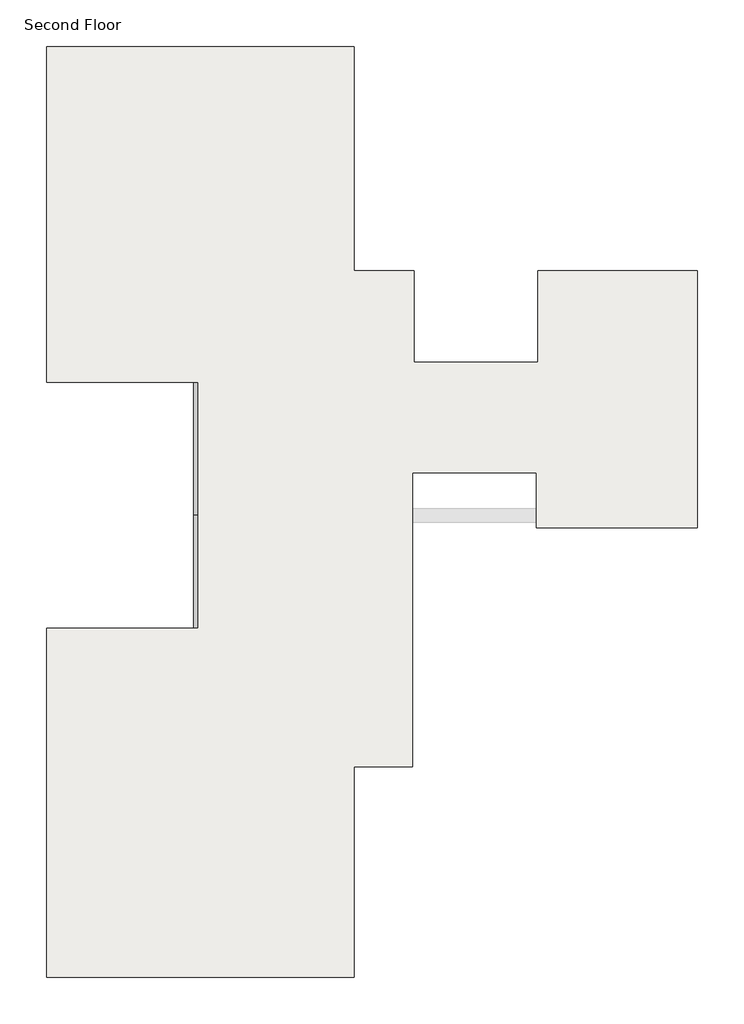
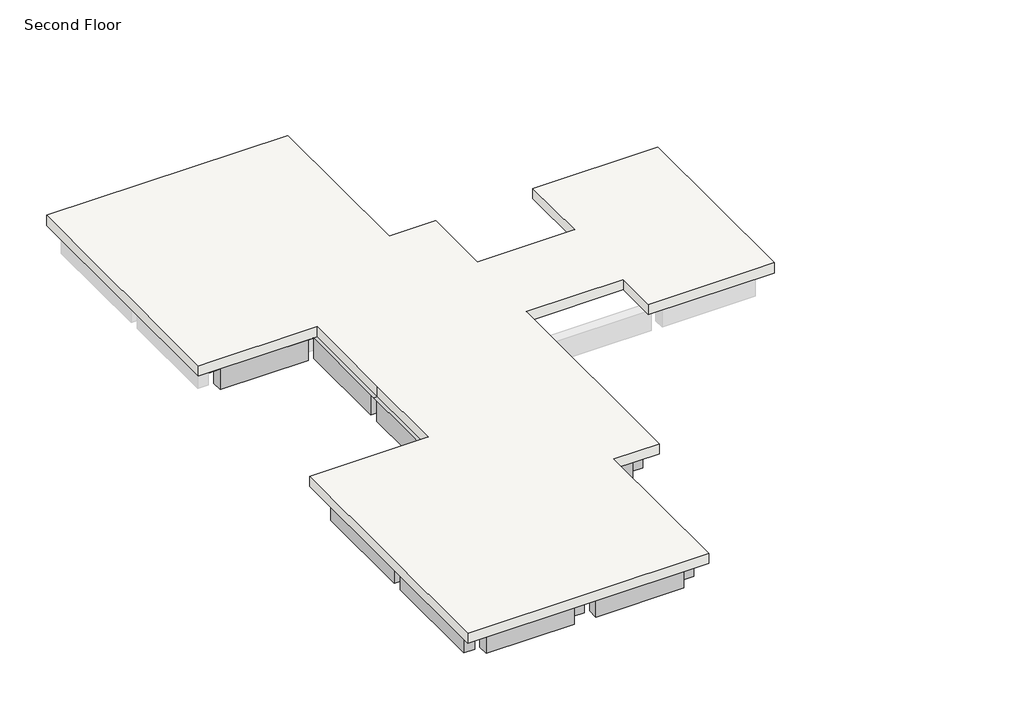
# One storey, part 1 of 2: 17 beams, 1 slab.
"""IFC4 building model written with IfcOpenShell, lengths in millimetres."""

from ifc_helpers import new_model, si_unit, origin, place, context, project, spatial, faceted_brep, element, save

model = new_model("IFC4")

# Units and contexts
model_context = context("Model", 3, world=origin())
ifc_project = project(units=[si_unit("LENGTHUNIT", "METRE", prefix="MILLI")], contexts=[model_context])

# Site, building, storey
site = spatial("IfcSite", under=ifc_project)
building = spatial("IfcBuilding", under=site)
storey = spatial("IfcBuildingStorey", under=building, Name="Second Floor", Elevation=3810.0)

# Beams
placement = place(None, origin())
element("IfcBeam", 1, ObjectType="M_Concrete-Rectangular Beam : 300 x 600mm", at=placement, inside=storey, context=model_context, shape_type="Brep", body=[
    faceted_brep([(-9933.3472303, 7869.016665, 3510.0), (-9933.3472303, 7719.016665, 3510.0), (-9933.3472303, 4821.016665, 3510.0), (-9783.3472303, 4821.016665, 3510.0), (-9783.3472303, 4971.016665, 3510.0), (-9633.3472303, 4971.016665, 3510.0), (-9633.3472303, 7719.016665, 3510.0), (-9633.3472303, 7869.016665, 3510.0), (-9783.3472303, 7869.016665, 3510.0), (-9633.3472303, 7719.016665, 2910.0), (-9633.3472303, 7719.016665, 3505.2), (-9633.3472303, 7869.016665, 3505.2), (-9633.3472303, 4971.016665, 2910.0), (-9933.3472303, 4971.016665, 2910.0), (-9933.3472303, 7719.016665, 2910.0), (-9933.3472303, 7869.016665, 3505.2), (-9933.3472303, 7719.016665, 3505.2), (-9933.3472303, 4971.016665, 3505.2), (-9933.3472303, 4821.016665, 3505.2), (-9783.3472303, 4971.016665, 3505.2), (-9783.3472303, 7869.016665, 3505.2), (-9783.3472303, 4821.016665, 3505.2)], [[[0, 1, 2, 3, 4, 5, 6, 7, 8]], [[9, 10, 11, 7, 6, 5, 12]], [[12, 13, 14, 9]], [[2, 1, 0, 15, 16, 14, 13, 17, 18]], [[5, 4, 19, 17, 13, 12]], [[16, 10, 9, 14]], [[10, 16, 15, 20, 11]], [[17, 19, 21, 18]], [[0, 8, 7, 11, 20, 15]], [[3, 2, 18, 21]], [[4, 3, 21, 19]]]),
])
element("IfcBeam", 2, ObjectType="M_Concrete-Rectangular Beam : 300 x 600mm", at=placement, inside=storey, context=model_context, shape_type="Brep", body=[
    faceted_brep([(-12681.3472303, 8019.016665, 3510.0), (-12681.3472303, 7869.016665, 3510.0), (-12831.3472303, 7869.016665, 3510.0), (-12831.3472303, 7719.016665, 3510.0), (-9933.3472303, 7719.016665, 3510.0), (-9933.3472303, 7869.016665, 3510.0), (-9933.3472303, 8019.016665, 3510.0), (-12531.3472303, 7719.016665, 3505.2), (-12531.3472303, 7719.016665, 2910.0), (-10083.3472303, 7719.016665, 2910.0), (-10083.3472303, 7719.016665, 3505.2), (-9933.3472303, 7719.016665, 3505.2), (-12831.3472303, 7719.016665, 3505.2), (-12531.3472303, 8019.016665, 2910.0), (-10083.3472303, 8019.016665, 2910.0), (-12681.3472303, 8019.016665, 3505.2), (-9933.3472303, 8019.016665, 3505.2), (-10083.3472303, 8019.016665, 3505.2), (-12531.3472303, 8019.016665, 3505.2), (-9933.3472303, 7869.016665, 3505.2), (-12681.3472303, 7869.016665, 3505.2), (-12831.3472303, 7869.016665, 3505.2)], [[[0, 1, 2, 3, 4, 5, 6]], [[7, 8, 9, 10, 11, 4, 3, 12]], [[8, 13, 14, 9]], [[15, 0, 6, 16, 17, 14, 13, 18]], [[6, 5, 4, 11, 19, 16]], [[1, 0, 15, 20]], [[7, 18, 13, 8]], [[18, 7, 12, 21, 20, 15]], [[17, 10, 9, 14]], [[10, 17, 16, 19, 11]], [[3, 2, 21, 12]], [[2, 1, 20, 21]]]),
])
element("IfcBeam", 3, ObjectType="M_Concrete-Rectangular Beam : 300 x 600mm", at=placement, inside=storey, context=model_context, shape_type="Brep", body=[
    faceted_brep([(-9783.3472303, 1623.016665, 3510.0), (-9633.3472303, 1623.016665, 3510.0), (-5666.3472303, 1623.016665, 3510.0), (-5516.3472303, 1623.016665, 3510.0), (-5516.3472303, 1773.016665, 3510.0), (-5666.3472303, 1773.016665, 3510.0), (-5666.3472303, 1923.016665, 3510.0), (-9633.3472303, 1923.016665, 3510.0), (-9783.3472303, 1923.016665, 3510.0), (-9783.3472303, 1773.016665, 3510.0), (-9483.3472303, 1923.016665, 2910.0), (-9483.3472303, 1923.016665, 3505.2), (-9783.3472303, 1923.016665, 3505.2), (-5666.3472303, 1923.016665, 3505.2), (-5816.3472303, 1923.016665, 3505.2), (-5816.3472303, 1923.016665, 2910.0), (-9483.3472303, 1623.016665, 2910.0), (-5816.3472303, 1623.016665, 2910.0), (-9783.3472303, 1623.016665, 3505.2), (-9483.3472303, 1623.016665, 3505.2), (-5816.3472303, 1623.016665, 3505.2), (-5516.3472303, 1623.016665, 3505.2), (-5666.3472303, 1773.016665, 3505.2), (-9783.3472303, 1773.016665, 3505.2), (-5516.3472303, 1773.016665, 3505.2)], [[[0, 1, 2, 3, 4, 5, 6, 7, 8, 9]], [[10, 11, 12, 8, 7, 6, 13, 14, 15]], [[16, 10, 15, 17]], [[3, 2, 1, 0, 18, 19, 16, 17, 20, 21]], [[6, 5, 22, 13]], [[19, 11, 10, 16]], [[11, 19, 18, 23, 12]], [[14, 20, 17, 15]], [[20, 14, 13, 22, 24, 21]], [[0, 9, 8, 12, 23, 18]], [[4, 3, 21, 24]], [[5, 4, 24, 22]]]),
])
element("IfcBeam", 4, ObjectType="M_Concrete-Rectangular Beam : 300 x 600mm", at=placement, inside=storey, context=model_context, shape_type="Brep", body=[
    faceted_brep([(-9933.3472303, 4821.016665, 3510.0), (-9933.3472303, 1923.016665, 3510.0), (-9933.3472303, 1773.016665, 3510.0), (-9783.3472303, 1773.016665, 3510.0), (-9783.3472303, 1923.016665, 3510.0), (-9633.3472303, 1923.016665, 3510.0), (-9633.3472303, 4671.016665, 3510.0), (-9783.3472303, 4671.016665, 3510.0), (-9783.3472303, 4821.016665, 3510.0), (-9633.3472303, 1923.016665, 2910.0), (-9633.3472303, 4671.016665, 2910.0), (-9933.3472303, 1923.016665, 2910.0), (-9933.3472303, 4671.016665, 2910.0), (-9933.3472303, 4821.016665, 3505.2), (-9933.3472303, 4671.016665, 3505.2), (-9933.3472303, 1923.016665, 3505.2), (-9933.3472303, 1773.016665, 3505.2), (-9783.3472303, 4671.016665, 3505.2), (-9783.3472303, 1923.016665, 3505.2), (-9783.3472303, 4821.016665, 3505.2), (-9783.3472303, 1773.016665, 3505.2)], [[[0, 1, 2, 3, 4, 5, 6, 7, 8]], [[6, 5, 9, 10]], [[9, 11, 12, 10]], [[2, 1, 0, 13, 14, 12, 11, 15, 16]], [[7, 6, 10, 12, 14, 17]], [[5, 4, 18, 15, 11, 9]], [[17, 14, 13, 19]], [[15, 18, 20, 16]], [[0, 8, 19, 13]], [[3, 2, 16, 20]], [[8, 7, 17, 19]], [[4, 3, 20, 18]]]),
])
element("IfcBeam", 5, ObjectType="M_Concrete-Rectangular Beam : 300 x 600mm", at=placement, inside=storey, context=model_context, shape_type="Brep", body=[
    faceted_brep([(-5366.3472303, -360.983335, 3510.0), (-5366.3472303, 1773.016665, 3510.0), (-5516.3472303, 1773.016665, 3510.0), (-5516.3472303, 1623.016665, 3510.0), (-5666.3472303, 1623.016665, 3510.0), (-5666.3472303, -210.983335, 3510.0), (-5666.3472303, -360.983335, 3510.0), (-5516.3472303, -360.983335, 3510.0), (-5666.3472303, 1623.016665, 2910.0), (-5666.3472303, -210.983335, 2910.0), (-5666.3472303, -210.983335, 3505.2), (-5666.3472303, -360.983335, 3505.2), (-5366.3472303, 1623.016665, 2910.0), (-5366.3472303, -210.983335, 2910.0), (-5366.3472303, -360.983335, 3505.2), (-5366.3472303, -210.983335, 3505.2), (-5366.3472303, 1623.016665, 3505.2), (-5366.3472303, 1773.016665, 3505.2), (-5516.3472303, 1623.016665, 3505.2), (-5516.3472303, 1773.016665, 3505.2), (-5516.3472303, -360.983335, 3505.2)], [[[0, 1, 2, 3, 4, 5, 6, 7]], [[6, 5, 4, 8, 9, 10, 11]], [[8, 12, 13, 9]], [[1, 0, 14, 15, 13, 12, 16, 17]], [[4, 3, 18, 16, 12, 8]], [[16, 18, 19, 17]], [[15, 10, 9, 13]], [[10, 15, 14, 20, 11]], [[2, 1, 17, 19]], [[0, 7, 6, 11, 20, 14]], [[3, 2, 19, 18]]]),
])
element("IfcBeam", 6, ObjectType="M_Concrete-Rectangular Beam : 300 x 600mm", at=placement, inside=storey, context=model_context, shape_type="Brep", body=[
    faceted_brep([(-6885.3472303, -510.983335, 3510.0), (-6585.3472303, -510.983335, 3510.0), (-5516.3472303, -510.983335, 3510.0), (-5516.3472303, -360.983335, 3510.0), (-5666.3472303, -360.983335, 3510.0), (-5666.3472303, -210.983335, 3510.0), (-6885.3472303, -210.983335, 3510.0), (-6885.3472303, -210.983335, 2910.0), (-5666.3472303, -210.983335, 3505.2), (-5816.3472303, -210.983335, 3505.2), (-5816.3472303, -210.983335, 2910.0), (-6885.3472303, -510.983335, 2910.0), (-5816.3472303, -510.983335, 2910.0), (-6585.3472303, -510.983335, 2910.0), (-5816.3472303, -510.983335, 3505.2), (-5516.3472303, -510.983335, 3505.2), (-5516.3472303, -360.983335, 3505.2), (-5666.3472303, -360.983335, 3505.2)], [[[0, 1, 2, 3, 4, 5, 6]], [[7, 6, 5, 8, 9, 10]], [[11, 7, 10, 12, 13]], [[2, 1, 0, 11, 13, 12, 14, 15]], [[3, 2, 15, 16]], [[0, 6, 7, 11]], [[5, 4, 17, 8]], [[4, 3, 16, 17]], [[9, 14, 12, 10]], [[14, 9, 8, 17, 16, 15]]]),
])
element("IfcBeam", 7, ObjectType="M_Concrete-Rectangular Beam : 300 x 600mm", at=placement, inside=storey, context=model_context, shape_type="Brep", body=[
    faceted_brep([(-6885.3472303, -1579.983335, 3510.0), (-6735.3472303, -1579.983335, 3510.0), (-6585.3472303, -1579.983335, 3510.0), (-6585.3472303, -510.983335, 3510.0), (-6885.3472303, -510.983335, 3510.0), (-6885.3472303, -1429.983335, 3510.0), (-6885.3472303, -510.983335, 2910.0), (-6885.3472303, -1429.983335, 2910.0), (-6885.3472303, -1429.983335, 3505.2), (-6885.3472303, -1579.983335, 3505.2), (-6585.3472303, -510.983335, 2910.0), (-6585.3472303, -1429.983335, 2910.0), (-6585.3472303, -1579.983335, 3505.2), (-6585.3472303, -1429.983335, 3505.2), (-6735.3472303, -1579.983335, 3505.2)], [[[0, 1, 2, 3, 4, 5]], [[0, 5, 4, 6, 7, 8, 9]], [[6, 10, 11, 7]], [[3, 2, 12, 13, 11, 10]], [[2, 1, 0, 9, 14, 12]], [[4, 3, 10, 6]], [[13, 8, 7, 11]], [[8, 13, 12, 14, 9]]]),
])
element("IfcBeam", 8, ObjectType="M_Concrete-Rectangular Beam : 300 x 600mm", at=placement, inside=storey, context=model_context, shape_type="Brep", body=[
    faceted_brep([(-6585.3472303, -4932.983335, 3510.0), (-6585.3472303, -1579.983335, 3510.0), (-6735.3472303, -1579.983335, 3510.0), (-6735.3472303, -1729.983335, 3510.0), (-6885.3472303, -1729.983335, 3510.0), (-6885.3472303, -4782.983335, 3510.0), (-6885.3472303, -4932.983335, 3510.0), (-6735.3472303, -4932.983335, 3510.0), (-6885.3472303, -1729.983335, 2910.0), (-6885.3472303, -4782.983335, 2910.0), (-6885.3472303, -4782.983335, 3505.2), (-6885.3472303, -4932.983335, 3505.2), (-6585.3472303, -1729.983335, 2910.0), (-6585.3472303, -4782.983335, 2910.0), (-6585.3472303, -4932.983335, 3505.2), (-6585.3472303, -4782.983335, 3505.2), (-6585.3472303, -1729.983335, 3505.2), (-6585.3472303, -1579.983335, 3505.2), (-6735.3472303, -1579.983335, 3505.2), (-6735.3472303, -4932.983335, 3505.2), (-6735.3472303, -1729.983335, 3505.2)], [[[0, 1, 2, 3, 4, 5, 6, 7]], [[4, 8, 9, 10, 11, 6, 5]], [[9, 8, 12, 13]], [[1, 0, 14, 15, 13, 12, 16, 17]], [[1, 17, 18, 2]], [[0, 7, 6, 11, 19, 14]], [[4, 3, 20, 16, 12, 8]], [[17, 16, 20, 18]], [[15, 10, 9, 13]], [[10, 15, 14, 19, 11]], [[20, 3, 2, 18]]]),
])
element("IfcBeam", 9, ObjectType="M_Concrete-Rectangular Beam : 300 x 600mm", at=placement, inside=storey, context=model_context, shape_type="Brep", body=[
    faceted_brep([(-9783.3472303, -5082.983335, 3510.0), (-6735.3472303, -5082.983335, 3510.0), (-6735.3472303, -4932.983335, 3510.0), (-6885.3472303, -4932.983335, 3510.0), (-6885.3472303, -4782.983335, 3510.0), (-9633.3472303, -4782.983335, 3510.0), (-9783.3472303, -4782.983335, 3510.0), (-9783.3472303, -4932.983335, 3510.0), (-9483.3472303, -4782.983335, 2910.0), (-9483.3472303, -4782.983335, 3505.2), (-9783.3472303, -4782.983335, 3505.2), (-6885.3472303, -4782.983335, 3505.2), (-7035.3472303, -4782.983335, 3505.2), (-7035.3472303, -4782.983335, 2910.0), (-9483.3472303, -5082.983335, 2910.0), (-7035.3472303, -5082.983335, 2910.0), (-9783.3472303, -5082.983335, 3505.2), (-9483.3472303, -5082.983335, 3505.2), (-7035.3472303, -5082.983335, 3505.2), (-6735.3472303, -5082.983335, 3505.2), (-6885.3472303, -4932.983335, 3505.2), (-9783.3472303, -4932.983335, 3505.2), (-6735.3472303, -4932.983335, 3505.2)], [[[0, 1, 2, 3, 4, 5, 6, 7]], [[8, 9, 10, 6, 5, 4, 11, 12, 13]], [[14, 8, 13, 15]], [[1, 0, 16, 17, 14, 15, 18, 19]], [[4, 3, 20, 11]], [[17, 9, 8, 14]], [[9, 17, 16, 21, 10]], [[12, 18, 15, 13]], [[18, 12, 11, 20, 22, 19]], [[0, 7, 6, 10, 21, 16]], [[2, 1, 19, 22]], [[3, 2, 22, 20]]]),
])
element("IfcBeam", 10, ObjectType="M_Concrete-Rectangular Beam : 300 x 600mm", at=placement, inside=storey, context=model_context, shape_type="Brep", body=[
    faceted_brep([(-9933.3472303, -1579.983335, 3510.0), (-9933.3472303, -1729.983335, 3510.0), (-9933.3472303, -4782.983335, 3510.0), (-9933.3472303, -4932.983335, 3510.0), (-9783.3472303, -4932.983335, 3510.0), (-9783.3472303, -4782.983335, 3510.0), (-9633.3472303, -4782.983335, 3510.0), (-9633.3472303, -1729.983335, 3510.0), (-9633.3472303, -1579.983335, 3510.0), (-9783.3472303, -1579.983335, 3510.0), (-9633.3472303, -4782.983335, 2910.0), (-9633.3472303, -1729.983335, 2910.0), (-9633.3472303, -1729.983335, 3505.2), (-9633.3472303, -1579.983335, 3505.2), (-9933.3472303, -4782.983335, 2910.0), (-9933.3472303, -1729.983335, 2910.0), (-9933.3472303, -1579.983335, 3505.2), (-9933.3472303, -1729.983335, 3505.2), (-9933.3472303, -4782.983335, 3505.2), (-9933.3472303, -4932.983335, 3505.2), (-9783.3472303, -1579.983335, 3505.2), (-9783.3472303, -4932.983335, 3505.2), (-9783.3472303, -4782.983335, 3505.2)], [[[0, 1, 2, 3, 4, 5, 6, 7, 8, 9]], [[8, 7, 6, 10, 11, 12, 13]], [[11, 10, 14, 15]], [[3, 2, 1, 0, 16, 17, 15, 14, 18, 19]], [[0, 9, 8, 13, 20, 16]], [[4, 3, 19, 21]], [[6, 5, 22, 18, 14, 10]], [[5, 4, 21, 22]], [[17, 12, 11, 15]], [[12, 17, 16, 20, 13]], [[18, 22, 21, 19]]]),
])
element("IfcBeam", 11, ObjectType="M_Concrete-Rectangular Beam : 300 x 600mm", at=placement, inside=storey, context=model_context, shape_type="Brep", body=[
    faceted_brep([(-6885.3472303, -1579.983335, 3510.0), (-6885.3472303, -1429.983335, 3510.0), (-9633.3472303, -1429.983335, 3510.0), (-9783.3472303, -1429.983335, 3510.0), (-9783.3472303, -1579.983335, 3510.0), (-9633.3472303, -1579.983335, 3510.0), (-9633.3472303, -1729.983335, 3510.0), (-6885.3472303, -1729.983335, 3510.0), (-6735.3472303, -1729.983335, 3510.0), (-6735.3472303, -1579.983335, 3510.0), (-9633.3472303, -1729.983335, 3505.2), (-9483.3472303, -1729.983335, 3505.2), (-9483.3472303, -1729.983335, 2910.0), (-7035.3472303, -1729.983335, 2910.0), (-7035.3472303, -1729.983335, 3505.2), (-6735.3472303, -1729.983335, 3505.2), (-9483.3472303, -1429.983335, 2910.0), (-7035.3472303, -1429.983335, 2910.0), (-9483.3472303, -1429.983335, 3505.2), (-9783.3472303, -1429.983335, 3505.2), (-6885.3472303, -1429.983335, 3505.2), (-7035.3472303, -1429.983335, 3505.2), (-6885.3472303, -1579.983335, 3505.2), (-9633.3472303, -1579.983335, 3505.2), (-9783.3472303, -1579.983335, 3505.2), (-6735.3472303, -1579.983335, 3505.2)], [[[0, 1, 2, 3, 4, 5, 6, 7, 8, 9]], [[6, 10, 11, 12, 13, 14, 15, 8, 7]], [[12, 16, 17, 13]], [[16, 18, 19, 3, 2, 1, 20, 21, 17]], [[1, 0, 22, 20]], [[6, 5, 23, 10]], [[11, 18, 16, 12]], [[18, 11, 10, 23, 24, 19]], [[21, 14, 13, 17]], [[14, 21, 20, 22, 25, 15]], [[4, 3, 19, 24]], [[9, 8, 15, 25]], [[0, 9, 25, 22]], [[5, 4, 24, 23]]]),
])
element("IfcBeam", 12, ObjectType="M_Concrete-Rectangular Beam : 300 x 600mm", at=placement, inside=storey, context=model_context, shape_type="Brep", body=[
    faceted_brep([(-9933.3472303, 1773.016665, 3510.0), (-9933.3472303, 1623.016665, 3510.0), (-9933.3472303, -1429.983335, 3510.0), (-9933.3472303, -1579.983335, 3510.0), (-9783.3472303, -1579.983335, 3510.0), (-9783.3472303, -1429.983335, 3510.0), (-9633.3472303, -1429.983335, 3510.0), (-9633.3472303, 1623.016665, 3510.0), (-9783.3472303, 1623.016665, 3510.0), (-9783.3472303, 1773.016665, 3510.0), (-9633.3472303, -1429.983335, 2910.0), (-9633.3472303, 1623.016665, 2910.0), (-9933.3472303, -1429.983335, 2910.0), (-9933.3472303, 1623.016665, 2910.0), (-9933.3472303, 1773.016665, 3505.2), (-9933.3472303, 1623.016665, 3505.2), (-9933.3472303, -1429.983335, 3505.2), (-9933.3472303, -1579.983335, 3505.2), (-9783.3472303, 1773.016665, 3505.2), (-9783.3472303, -1579.983335, 3505.2), (-9783.3472303, 1623.016665, 3505.2), (-9783.3472303, -1429.983335, 3505.2)], [[[0, 1, 2, 3, 4, 5, 6, 7, 8, 9]], [[7, 6, 10, 11]], [[11, 10, 12, 13]], [[3, 2, 1, 0, 14, 15, 13, 12, 16, 17]], [[0, 9, 18, 14]], [[4, 3, 17, 19]], [[8, 7, 11, 13, 15, 20]], [[9, 8, 20, 18]], [[6, 5, 21, 16, 12, 10]], [[5, 4, 19, 21]], [[20, 15, 14, 18]], [[16, 21, 19, 17]]]),
])
element("IfcBeam", 13, ObjectType="M_Concrete-Rectangular Beam : 300 x 600mm", at=placement, inside=storey, context=model_context, shape_type="Brep", body=[
    faceted_brep([(-12831.3472303, -5082.983335, 3510.0), (-9783.3472303, -5082.983335, 3510.0), (-9783.3472303, -4932.983335, 3510.0), (-9933.3472303, -4932.983335, 3510.0), (-9933.3472303, -4782.983335, 3510.0), (-12681.3472303, -4782.983335, 3510.0), (-12831.3472303, -4782.983335, 3510.0), (-12831.3472303, -4932.983335, 3510.0), (-12531.3472303, -4782.983335, 2910.0), (-12531.3472303, -4782.983335, 3505.2), (-12831.3472303, -4782.983335, 3505.2), (-9933.3472303, -4782.983335, 3505.2), (-10083.3472303, -4782.983335, 3505.2), (-10083.3472303, -4782.983335, 2910.0), (-12531.3472303, -5082.983335, 2910.0), (-10083.3472303, -5082.983335, 2910.0), (-12831.3472303, -5082.983335, 3505.2), (-12531.3472303, -5082.983335, 3505.2), (-10083.3472303, -5082.983335, 3505.2), (-9783.3472303, -5082.983335, 3505.2), (-9933.3472303, -4932.983335, 3505.2), (-12831.3472303, -4932.983335, 3505.2), (-9783.3472303, -4932.983335, 3505.2)], [[[0, 1, 2, 3, 4, 5, 6, 7]], [[8, 9, 10, 6, 5, 4, 11, 12, 13]], [[14, 8, 13, 15]], [[1, 0, 16, 17, 14, 15, 18, 19]], [[4, 3, 20, 11]], [[17, 9, 8, 14]], [[9, 17, 16, 21, 10]], [[12, 18, 15, 13]], [[18, 12, 11, 20, 22, 19]], [[0, 7, 6, 10, 21, 16]], [[2, 1, 19, 22]], [[3, 2, 22, 20]]]),
])
element("IfcBeam", 14, ObjectType="M_Concrete-Rectangular Beam : 300 x 600mm", at=placement, inside=storey, context=model_context, shape_type="Brep", body=[
    faceted_brep([(-12981.3472303, -1579.983335, 3510.0), (-12981.3472303, -4932.983335, 3510.0), (-12831.3472303, -4932.983335, 3510.0), (-12831.3472303, -4782.983335, 3510.0), (-12681.3472303, -4782.983335, 3510.0), (-12681.3472303, -1729.983335, 3510.0), (-12681.3472303, -1579.983335, 3510.0), (-12831.3472303, -1579.983335, 3510.0), (-12681.3472303, -4782.983335, 2910.0), (-12681.3472303, -1729.983335, 2910.0), (-12681.3472303, -1729.983335, 3505.2), (-12681.3472303, -1579.983335, 3505.2), (-12981.3472303, -4782.983335, 2910.0), (-12981.3472303, -1729.983335, 2910.0), (-12981.3472303, -1579.983335, 3505.2), (-12981.3472303, -1729.983335, 3505.2), (-12981.3472303, -4782.983335, 3505.2), (-12981.3472303, -4932.983335, 3505.2), (-12831.3472303, -1579.983335, 3505.2), (-12831.3472303, -4932.983335, 3505.2), (-12831.3472303, -4782.983335, 3505.2)], [[[0, 1, 2, 3, 4, 5, 6, 7]], [[6, 5, 4, 8, 9, 10, 11]], [[9, 8, 12, 13]], [[1, 0, 14, 15, 13, 12, 16, 17]], [[0, 7, 6, 11, 18, 14]], [[2, 1, 17, 19]], [[4, 3, 20, 16, 12, 8]], [[3, 2, 19, 20]], [[15, 10, 9, 13]], [[10, 15, 14, 18, 11]], [[16, 20, 19, 17]]]),
])
element("IfcBeam", 15, ObjectType="M_Concrete-Rectangular Beam : 300 x 600mm", at=placement, inside=storey, context=model_context, shape_type="Brep", body=[
    faceted_brep([(-12681.3472303, -1579.983335, 3510.0), (-12681.3472303, -1729.983335, 3510.0), (-9933.3472303, -1729.983335, 3510.0), (-9933.3472303, -1579.983335, 3510.0), (-9933.3472303, -1429.983335, 3510.0), (-12681.3472303, -1429.983335, 3510.0), (-12831.3472303, -1429.983335, 3510.0), (-12831.3472303, -1579.983335, 3510.0), (-12681.3472303, -1729.983335, 3505.2), (-12531.3472303, -1729.983335, 3505.2), (-12531.3472303, -1729.983335, 2910.0), (-10083.3472303, -1729.983335, 2910.0), (-10083.3472303, -1729.983335, 3505.2), (-9933.3472303, -1729.983335, 3505.2), (-12531.3472303, -1429.983335, 2910.0), (-10083.3472303, -1429.983335, 2910.0), (-12531.3472303, -1429.983335, 3505.2), (-12831.3472303, -1429.983335, 3505.2), (-9933.3472303, -1429.983335, 3505.2), (-10083.3472303, -1429.983335, 3505.2), (-9933.3472303, -1579.983335, 3505.2), (-12681.3472303, -1579.983335, 3505.2), (-12831.3472303, -1579.983335, 3505.2)], [[[0, 1, 2, 3, 4, 5, 6, 7]], [[1, 8, 9, 10, 11, 12, 13, 2]], [[10, 14, 15, 11]], [[14, 16, 17, 6, 5, 4, 18, 19, 15]], [[4, 3, 2, 13, 20, 18]], [[1, 0, 21, 8]], [[9, 16, 14, 10]], [[16, 9, 8, 21, 22, 17]], [[19, 12, 11, 15]], [[12, 19, 18, 20, 13]], [[7, 6, 17, 22]], [[0, 7, 22, 21]]]),
])
element("IfcBeam", 16, ObjectType="M_Concrete-Rectangular Beam : 300 x 600mm", at=placement, inside=storey, context=model_context, shape_type="Brep", body=[
    faceted_brep([(-12981.3472303, 1773.016665, 3510.0), (-12981.3472303, -1579.983335, 3510.0), (-12831.3472303, -1579.983335, 3510.0), (-12831.3472303, -1429.983335, 3510.0), (-12681.3472303, -1429.983335, 3510.0), (-12681.3472303, 1623.016665, 3510.0), (-12681.3472303, 1773.016665, 3510.0), (-12831.3472303, 1773.016665, 3510.0), (-12681.3472303, -1429.983335, 2910.0), (-12681.3472303, 1623.016665, 2910.0), (-12681.3472303, 1623.016665, 3505.2), (-12681.3472303, 1773.016665, 3505.2), (-12981.3472303, -1429.983335, 2910.0), (-12981.3472303, 1623.016665, 2910.0), (-12981.3472303, 1773.016665, 3505.2), (-12981.3472303, 1623.016665, 3505.2), (-12981.3472303, -1429.983335, 3505.2), (-12981.3472303, -1579.983335, 3505.2), (-12831.3472303, 1773.016665, 3505.2), (-12831.3472303, -1579.983335, 3505.2), (-12831.3472303, -1429.983335, 3505.2)], [[[0, 1, 2, 3, 4, 5, 6, 7]], [[6, 5, 4, 8, 9, 10, 11]], [[9, 8, 12, 13]], [[1, 0, 14, 15, 13, 12, 16, 17]], [[0, 7, 6, 11, 18, 14]], [[2, 1, 17, 19]], [[4, 3, 20, 16, 12, 8]], [[3, 2, 19, 20]], [[15, 10, 9, 13]], [[10, 15, 14, 18, 11]], [[16, 20, 19, 17]]]),
])
element("IfcBeam", 17, ObjectType="M_Concrete-Rectangular Beam : 300 x 600mm", at=placement, inside=storey, context=model_context, shape_type="Brep", body=[
    faceted_brep([(-12681.3472303, 1773.016665, 3510.0), (-12681.3472303, 1623.016665, 3510.0), (-9933.3472303, 1623.016665, 3510.0), (-9933.3472303, 1773.016665, 3510.0), (-9933.3472303, 1923.016665, 3510.0), (-12831.3472303, 1923.016665, 3510.0), (-12831.3472303, 1773.016665, 3510.0), (-12681.3472303, 1623.016665, 3505.2), (-12531.3472303, 1623.016665, 3505.2), (-12531.3472303, 1623.016665, 2910.0), (-10083.3472303, 1623.016665, 2910.0), (-10083.3472303, 1623.016665, 3505.2), (-9933.3472303, 1623.016665, 3505.2), (-12531.3472303, 1923.016665, 2910.0), (-10083.3472303, 1923.016665, 2910.0), (-12531.3472303, 1923.016665, 3505.2), (-12831.3472303, 1923.016665, 3505.2), (-9933.3472303, 1923.016665, 3505.2), (-10083.3472303, 1923.016665, 3505.2), (-9933.3472303, 1773.016665, 3505.2), (-12681.3472303, 1773.016665, 3505.2), (-12831.3472303, 1773.016665, 3505.2)], [[[0, 1, 2, 3, 4, 5, 6]], [[1, 7, 8, 9, 10, 11, 12, 2]], [[9, 13, 14, 10]], [[13, 15, 16, 5, 4, 17, 18, 14]], [[4, 3, 2, 12, 19, 17]], [[1, 0, 20, 7]], [[8, 15, 13, 9]], [[15, 8, 7, 20, 21, 16]], [[18, 11, 10, 14]], [[11, 18, 17, 19, 12]], [[6, 5, 16, 21]], [[0, 6, 21, 20]]]),
])

# Slab
element("IfcSlab", 18, ObjectType="Generic 300mm", at=placement, inside=storey, context=model_context, shape_type="Brep", body=[
    faceted_brep([(-6435.3472303, 15026.016665, 3510.0), (-6435.3472303, 10150.016665, 3510.0), (-5135.3472303, 10150.016665, 3510.0), (-5135.3472303, 8150.016665, 3510.0), (-2435.3472303, 8150.016665, 3510.0), (-2435.3472303, 10150.016665, 3510.0), (1032.6527697, 10150.016665, 3510.0), (1032.6527697, 8019.016665, 3510.0), (1032.6527697, 7719.016665, 3510.0), (1032.6527697, 4550.016665, 3510.0), (-2467.3472303, 4550.016665, 3510.0), (-2467.3472303, 5750.016665, 3510.0), (-5167.3472303, 5750.016665, 3510.0), (-5167.3472303, -649.983335, 3510.0), (-6435.3472303, -649.983335, 3510.0), (-6435.3472303, -5232.983335, 3510.0), (-13135.3472303, -5232.983335, 3510.0), (-13135.3472303, 2367.016665, 3510.0), (-9835.3472303, 2367.016665, 3510.0), (-9835.3472303, 4821.016665, 3510.0), (-9835.3472303, 7721.016665, 3510.0), (-13131.3472303, 7721.016665, 3510.0), (-13131.3472303, 15026.016665, 3510.0), (-6435.3472303, 15026.016665, 3810.0), (-13131.3472303, 15026.016665, 3810.0), (-13131.3472303, 7721.016665, 3810.0), (-9835.3472303, 7721.016665, 3810.0), (-9835.3472303, 4821.016665, 3810.0), (-9835.3472303, 2367.016665, 3810.0), (-13135.3472303, 2367.016665, 3810.0), (-13135.3472303, -5232.983335, 3810.0), (-6435.3472303, -5232.983335, 3810.0), (-6435.3472303, -649.983335, 3810.0), (-5167.3472303, -649.983335, 3810.0), (-5167.3472303, 5750.016665, 3810.0), (-2467.3472303, 5750.016665, 3810.0), (-2467.3472303, 4550.016665, 3810.0), (1032.6527697, 4550.016665, 3810.0), (1032.6527697, 10150.016665, 3810.0), (-2435.3472303, 10150.016665, 3810.0), (-2435.3472303, 8150.016665, 3810.0), (-5135.3472303, 8150.016665, 3810.0), (-5135.3472303, 10150.016665, 3810.0), (-6435.3472303, 10150.016665, 3810.0)], [[[0, 1, 2, 3, 4, 5, 6, 7, 8, 9, 10, 11, 12, 13, 14, 15, 16, 17, 18, 19, 20, 21, 22]], [[23, 24, 25, 26, 27, 28, 29, 30, 31, 32, 33, 34, 35, 36, 37, 38, 39, 40, 41, 42, 43]], [[1, 0, 23, 43]], [[2, 1, 43, 42]], [[3, 2, 42, 41]], [[4, 3, 41, 40]], [[5, 4, 40, 39]], [[6, 5, 39, 38]], [[9, 8, 7, 6, 38, 37]], [[10, 9, 37, 36]], [[11, 10, 36, 35]], [[12, 11, 35, 34]], [[13, 12, 34, 33]], [[14, 13, 33, 32]], [[15, 14, 32, 31]], [[16, 15, 31, 30]], [[17, 16, 30, 29]], [[18, 17, 29, 28]], [[19, 18, 28, 27]], [[20, 19, 27, 26]], [[21, 20, 26, 25]], [[22, 21, 25, 24]], [[0, 22, 24, 23]]]),
])

save(model, "model.ifc")
